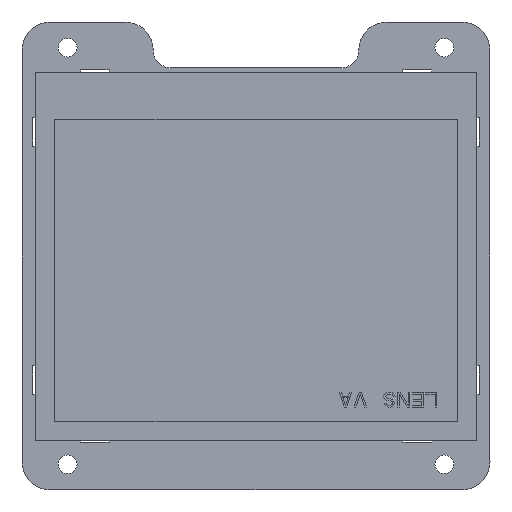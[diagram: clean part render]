
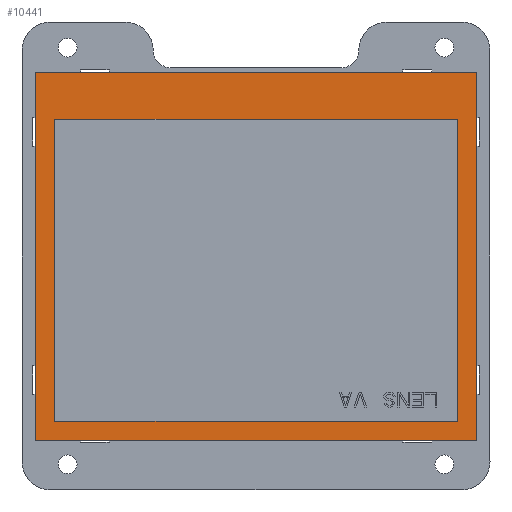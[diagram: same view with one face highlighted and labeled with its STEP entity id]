
A CAD part, front view. The second image highlights one B-rep face of the part: STEP entity #10441.
In plain terms, the highlighted planar face has unit normal (0, -1, 0) as drawn and (0, 1, 0) by its records, which use the part's own axes.
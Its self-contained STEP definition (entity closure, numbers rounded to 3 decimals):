
#7704=DIRECTION('',(0.,0.,1.));
#7705=VECTOR('',#7704,64.5);
#7706=CARTESIAN_POINT('',(-38.65,1.5,-32.25));
#7707=LINE('',#7706,#7705);
#7711=DIRECTION('',(-1.,0.,0.));
#7712=VECTOR('',#7711,77.3);
#7713=CARTESIAN_POINT('',(38.65,1.5,-32.25));
#7714=LINE('',#7713,#7712);
#7718=DIRECTION('',(0.,0.,-1.));
#7719=VECTOR('',#7718,64.5);
#7720=CARTESIAN_POINT('',(38.65,1.5,32.25));
#7721=LINE('',#7720,#7719);
#7725=DIRECTION('',(1.,0.,0.));
#7726=VECTOR('',#7725,77.3);
#7727=CARTESIAN_POINT('',(-38.65,1.5,32.25));
#7728=LINE('',#7727,#7726);
#7732=DIRECTION('',(1.,0.,0.));
#7733=VECTOR('',#7732,70.48);
#7734=CARTESIAN_POINT('',(-35.25,1.5,24.06));
#7735=LINE('',#7734,#7733);
#7739=DIRECTION('',(0.,0.,-1.));
#7740=VECTOR('',#7739,52.96);
#7741=CARTESIAN_POINT('',(35.23,1.5,24.06));
#7742=LINE('',#7741,#7740);
#7746=DIRECTION('',(-1.,0.,0.));
#7747=VECTOR('',#7746,70.48);
#7748=CARTESIAN_POINT('',(35.23,1.5,-28.9));
#7749=LINE('',#7748,#7747);
#7753=DIRECTION('',(0.,0.,1.));
#7754=VECTOR('',#7753,52.96);
#7755=CARTESIAN_POINT('',(-35.25,1.5,-28.9));
#7756=LINE('',#7755,#7754);
#9924=CARTESIAN_POINT('',(-38.65,1.5,-32.25));
#9925=CARTESIAN_POINT('',(-38.65,1.5,32.25));
#9926=VERTEX_POINT('',#9924);
#9927=VERTEX_POINT('',#9925);
#9928=CARTESIAN_POINT('',(38.65,1.5,32.25));
#9929=VERTEX_POINT('',#9928);
#9930=CARTESIAN_POINT('',(38.65,1.5,-32.25));
#9931=VERTEX_POINT('',#9930);
#9940=CARTESIAN_POINT('',(-35.25,1.5,24.06));
#9941=CARTESIAN_POINT('',(35.23,1.5,24.06));
#9942=VERTEX_POINT('',#9940);
#9943=VERTEX_POINT('',#9941);
#9944=CARTESIAN_POINT('',(35.23,1.5,-28.9));
#9945=VERTEX_POINT('',#9944);
#9946=CARTESIAN_POINT('',(-35.25,1.5,-28.9));
#9947=VERTEX_POINT('',#9946);
#10420=CARTESIAN_POINT('',(0.,1.5,0.));
#10421=DIRECTION('',(0.,1.,0.));
#10422=DIRECTION('',(1.,0.,0.));
#10423=AXIS2_PLACEMENT_3D('',#10420,#10421,#10422);
#10424=PLANE('',#10423);
#10425=ORIENTED_EDGE('',*,*,#10372,.F.);
#10426=ORIENTED_EDGE('',*,*,#10387,.F.);
#10427=ORIENTED_EDGE('',*,*,#10401,.F.);
#10428=ORIENTED_EDGE('',*,*,#10414,.F.);
#10429=EDGE_LOOP('',(#10425,#10426,#10427,#10428));
#10430=FACE_OUTER_BOUND('',#10429,.F.);
#10432=ORIENTED_EDGE('',*,*,#10431,.T.);
#10434=ORIENTED_EDGE('',*,*,#10433,.T.);
#10436=ORIENTED_EDGE('',*,*,#10435,.T.);
#10438=ORIENTED_EDGE('',*,*,#10437,.T.);
#10439=EDGE_LOOP('',(#10432,#10434,#10436,#10438));
#10440=FACE_BOUND('',#10439,.F.);
#10372=EDGE_CURVE('',#9926,#9927,#7707,.T.);
#10387=EDGE_CURVE('',#9931,#9926,#7714,.T.);
#10401=EDGE_CURVE('',#9929,#9931,#7721,.T.);
#10414=EDGE_CURVE('',#9927,#9929,#7728,.T.);
#10431=EDGE_CURVE('',#9942,#9943,#7735,.T.);
#10433=EDGE_CURVE('',#9943,#9945,#7742,.T.);
#10435=EDGE_CURVE('',#9945,#9947,#7749,.T.);
#10437=EDGE_CURVE('',#9947,#9942,#7756,.T.);
#10441=ADVANCED_FACE('',(#10430,#10440),#10424,.T.);
